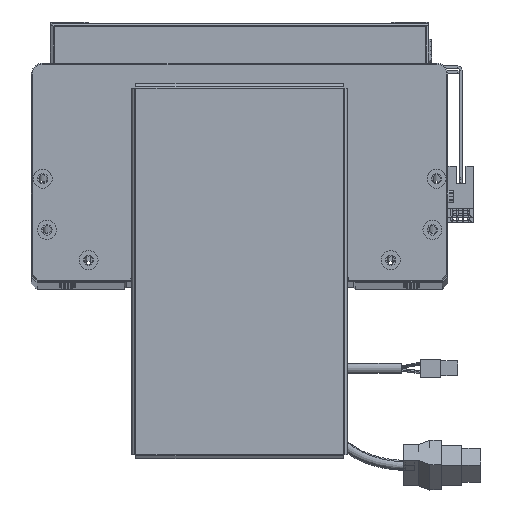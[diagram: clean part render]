
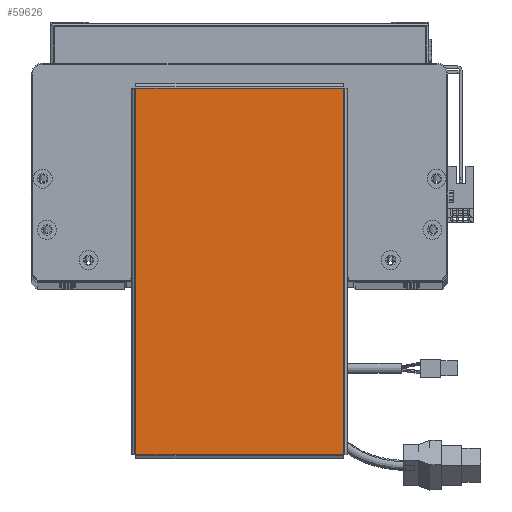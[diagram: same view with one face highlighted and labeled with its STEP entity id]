
A CAD part, top view. The second image highlights one B-rep face of the part: STEP entity #59626.
In plain terms, the highlighted planar face has unit normal (0, 0, 1).
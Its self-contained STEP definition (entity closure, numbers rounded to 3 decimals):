
#231 = VERTEX_POINT ( 'NONE', #20243 ) ;
#999 = VECTOR ( 'NONE', #31643, 1000. ) ;
#1527 = EDGE_CURVE ( 'NONE', #231, #38401, #45973, .T. ) ;
#10536 = CARTESIAN_POINT ( 'NONE',  ( 96.763, 54.763, 0. ) ) ;
#12634 = DIRECTION ( 'NONE',  ( 0., 0., 1. ) ) ;
#13483 = ORIENTED_EDGE ( 'NONE', *, *, #1527, .T. ) ;
#19494 = LINE ( 'NONE', #35109, #58854 ) ;
#20243 = CARTESIAN_POINT ( 'NONE',  ( -96.763, -54.763, 0. ) ) ;
#20328 = VECTOR ( 'NONE', #26621, 1000. ) ;
#26621 = DIRECTION ( 'NONE',  ( 1., 0., 0. ) ) ;
#31643 = DIRECTION ( 'NONE',  ( 0., -1., 0. ) ) ;
#35109 = CARTESIAN_POINT ( 'NONE',  ( 96.763, -54.793, 0. ) ) ;
#37440 = CARTESIAN_POINT ( 'NONE',  ( -96.763, 54.793, 0. ) ) ;
#38277 = PLANE ( 'NONE',  #66880 ) ;
#38401 = VERTEX_POINT ( 'NONE', #43962 ) ;
#41295 = DIRECTION ( 'NONE',  ( -1., 0., 0. ) ) ;
#43962 = CARTESIAN_POINT ( 'NONE',  ( 96.763, -54.763, 0. ) ) ;
#44319 = EDGE_CURVE ( 'NONE', #66020, #231, #44628, .T. ) ;
#44429 = VECTOR ( 'NONE', #41295, 1000. ) ;
#44628 = LINE ( 'NONE', #37440, #999 ) ;
#45973 = LINE ( 'NONE', #54446, #20328 ) ;
#46972 = DIRECTION ( 'NONE',  ( 0., 1., 0. ) ) ;
#47435 = CARTESIAN_POINT ( 'NONE',  ( 96.793, 54.763, 0. ) ) ;
#48259 = EDGE_CURVE ( 'NONE', #69007, #66020, #52992, .T. ) ;
#52992 = LINE ( 'NONE', #47435, #44429 ) ;
#53762 = FACE_OUTER_BOUND ( 'NONE', #62927, .T. ) ;
#54446 = CARTESIAN_POINT ( 'NONE',  ( -96.793, -54.763, 0. ) ) ;
#54976 = CARTESIAN_POINT ( 'NONE',  ( 0., 0., 0. ) ) ;
#55465 = DIRECTION ( 'NONE',  ( 1., 0., 0. ) ) ;
#58854 = VECTOR ( 'NONE', #46972, 1000. ) ;
#59341 = ORIENTED_EDGE ( 'NONE', *, *, #59917, .T. ) ;
#59626 = ADVANCED_FACE ( 'NONE', ( #53762 ), #38277, .T. ) ;
#59917 = EDGE_CURVE ( 'NONE', #38401, #69007, #19494, .T. ) ;
#60485 = CARTESIAN_POINT ( 'NONE',  ( -96.763, 54.763, 0. ) ) ;
#62927 = EDGE_LOOP ( 'NONE', ( #13483, #59341, #69780, #63653 ) ) ;
#63653 = ORIENTED_EDGE ( 'NONE', *, *, #44319, .T. ) ;
#66020 = VERTEX_POINT ( 'NONE', #60485 ) ;
#66880 = AXIS2_PLACEMENT_3D ( 'NONE', #54976, #12634, #55465 ) ;
#69007 = VERTEX_POINT ( 'NONE', #10536 ) ;
#69780 = ORIENTED_EDGE ( 'NONE', *, *, #48259, .T. ) ;
